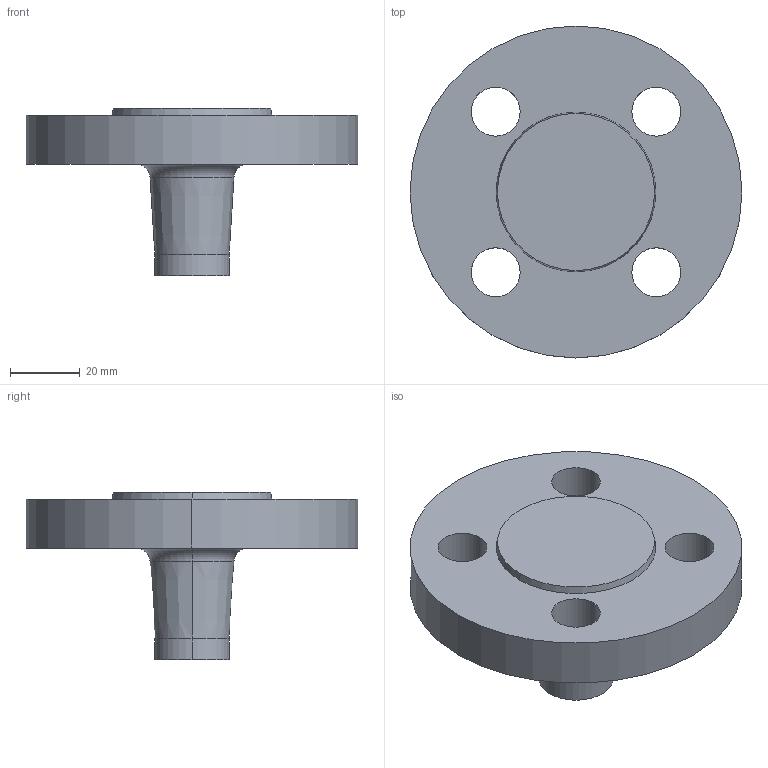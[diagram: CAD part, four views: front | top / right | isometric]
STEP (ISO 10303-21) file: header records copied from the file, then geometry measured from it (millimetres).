
FILE_DESCRIPTION (( 'STEP AP214' ), '1' );
FILE_NAME ('PN40 DN15 Type 21(ii) - Type B Face.STEP', '2018-12-29T14:26:22', ( '' ), ( '' ), 'SwSTEP 2.0', 'SolidWorks 2019', '' );
FILE_SCHEMA (( 'AUTOMOTIVE_DESIGN' ));
Length unit declared in the file: millimetre
Products named in the file (1): PN40 DN15 Type 21(ii) - Type B Face
Bounding box: 95 x 95 x 48 mm (x, y, z)
Volume: 106934.3 mm3; surface area: 21877.4 mm2
Topology: 1 solids, 1 shells, 24 faces, 54 edges, 34 vertices
Faces by surface type: cylinder 12, torus 4, cone 4, plane 4
Entity records: 738 total; most frequent: DIRECTION 142, CARTESIAN_POINT 113, ORIENTED_EDGE 108, AXIS2_PLACEMENT_3D 63, EDGE_CURVE 54, CIRCLE 38, VERTEX_POINT 34, EDGE_LOOP 34
